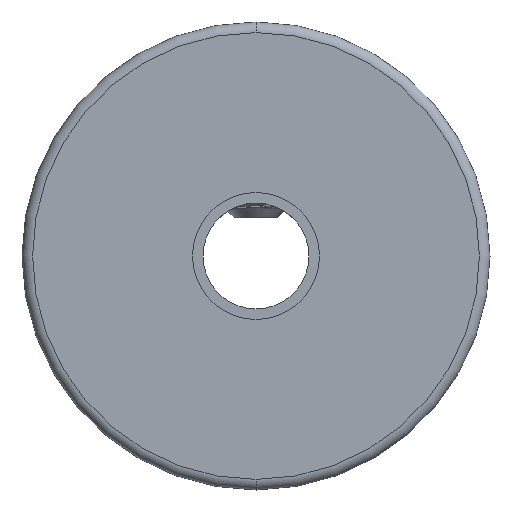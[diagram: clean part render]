
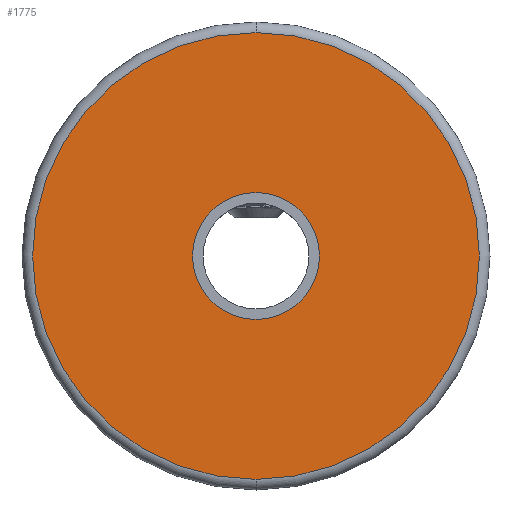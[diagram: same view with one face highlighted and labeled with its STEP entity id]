
A CAD part, left-side view. The second image highlights one B-rep face of the part: STEP entity #1775.
In plain terms, the highlighted planar face has unit normal (-1, 0, 0).
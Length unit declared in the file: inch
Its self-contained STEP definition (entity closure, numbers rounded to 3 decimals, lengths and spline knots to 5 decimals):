
#183 = AXIS2_PLACEMENT_3D ( 'NONE', #1729, #800, #1030 ) ;
#192 = PLANE ( 'NONE',  #2033 ) ;
#304 = DIRECTION ( 'NONE',  ( -1., 0., 0. ) ) ;
#336 = ORIENTED_EDGE ( 'NONE', *, *, #1559, .F. ) ;
#494 = CIRCLE ( 'NONE', #2054, 0.15 ) ;
#800 = DIRECTION ( 'NONE',  ( -1., 0., 0. ) ) ;
#888 = VERTEX_POINT ( 'NONE', #1053 ) ;
#1027 = EDGE_LOOP ( 'NONE', ( #2905, #2973 ) ) ;
#1030 = DIRECTION ( 'NONE',  ( 0., 0., -1. ) ) ;
#1053 = CARTESIAN_POINT ( 'NONE',  ( -0.5725, 0., -0.15 ) ) ;
#1094 = ORIENTED_EDGE ( 'NONE', *, *, #2999, .F. ) ;
#1109 = CARTESIAN_POINT ( 'NONE',  ( -0.5725, 0., 0.52772 ) ) ;
#1128 = FACE_OUTER_BOUND ( 'NONE', #1027, .T. ) ;
#1325 = DIRECTION ( 'NONE',  ( 0., 0., -1. ) ) ;
#1327 = VERTEX_POINT ( 'NONE', #1508 ) ;
#1408 = DIRECTION ( 'NONE',  ( -1., 0., 0. ) ) ;
#1487 = CARTESIAN_POINT ( 'NONE',  ( -0.5725, 0., 0.15 ) ) ;
#1508 = CARTESIAN_POINT ( 'NONE',  ( -0.5725, 0., -0.52772 ) ) ;
#1559 = EDGE_CURVE ( 'NONE', #1709, #888, #2026, .T. ) ;
#1606 = EDGE_LOOP ( 'NONE', ( #336, #1094 ) ) ;
#1667 = DIRECTION ( 'NONE',  ( 0., 0., 1. ) ) ;
#1687 = FACE_BOUND ( 'NONE', #1606, .T. ) ;
#1709 = VERTEX_POINT ( 'NONE', #1487 ) ;
#1729 = CARTESIAN_POINT ( 'NONE',  ( -0.5725, 0., 0. ) ) ;
#1775 = ADVANCED_FACE ( 'NONE', ( #1128, #1687 ), #192, .F. ) ;
#1917 = DIRECTION ( 'NONE',  ( 0., 0., -1. ) ) ;
#1977 = AXIS2_PLACEMENT_3D ( 'NONE', #2818, #2354, #1917 ) ;
#2026 = CIRCLE ( 'NONE', #2533, 0.15 ) ;
#2033 = AXIS2_PLACEMENT_3D ( 'NONE', #2518, #2490, #1325 ) ;
#2054 = AXIS2_PLACEMENT_3D ( 'NONE', #2332, #1408, #1667 ) ;
#2180 = EDGE_CURVE ( 'NONE', #1327, #2471, #2412, .T. ) ;
#2332 = CARTESIAN_POINT ( 'NONE',  ( -0.5725, 0., 0. ) ) ;
#2340 = CIRCLE ( 'NONE', #183, 0.52772 ) ;
#2354 = DIRECTION ( 'NONE',  ( -1., 0., 0. ) ) ;
#2395 = EDGE_CURVE ( 'NONE', #2471, #1327, #2340, .T. ) ;
#2412 = CIRCLE ( 'NONE', #1977, 0.52772 ) ;
#2471 = VERTEX_POINT ( 'NONE', #1109 ) ;
#2490 = DIRECTION ( 'NONE',  ( 1., 0., 0. ) ) ;
#2518 = CARTESIAN_POINT ( 'NONE',  ( -0.5725, 0., 0. ) ) ;
#2533 = AXIS2_PLACEMENT_3D ( 'NONE', #2866, #304, #2873 ) ;
#2818 = CARTESIAN_POINT ( 'NONE',  ( -0.5725, 0., 0. ) ) ;
#2866 = CARTESIAN_POINT ( 'NONE',  ( -0.5725, 0., 0. ) ) ;
#2873 = DIRECTION ( 'NONE',  ( 0., 0., 1. ) ) ;
#2905 = ORIENTED_EDGE ( 'NONE', *, *, #2180, .T. ) ;
#2973 = ORIENTED_EDGE ( 'NONE', *, *, #2395, .T. ) ;
#2999 = EDGE_CURVE ( 'NONE', #888, #1709, #494, .T. ) ;
